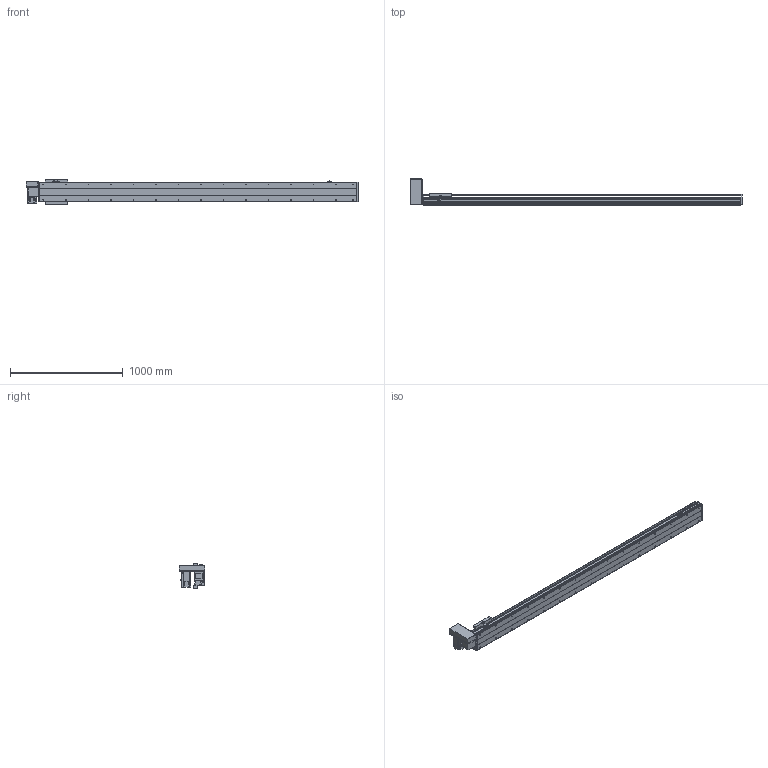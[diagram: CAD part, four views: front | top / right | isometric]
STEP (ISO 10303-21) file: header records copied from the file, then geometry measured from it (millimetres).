
FILE_DESCRIPTION(/* description */ ('STEP AP214'),/* implementation_level */ '2;1');
FILE_NAME(/* name */ 'PBS200-P40-S2450-RU-T75-C1-N(0)',/* time_stamp */ '2022-06-11T09:37:20+02:00',/* author */ ('License CC BY-ND 4.0'),/* organization */ ('CADENAS'),/* preprocessor_version */ 'ST-DEVELOPER v18.102',/* originating_system */ 'PARTsolutions',/* authorisation */ ' ');
FILE_SCHEMA (('AUTOMOTIVE_DESIGN {1 0 10303 214 3 1 1}'));
Length unit declared in the file: millimetre
Products named in the file (7): PBS200-P40-S2450-RU-T75-C1-N(0); PBS200_sensor; PBS200_plant; PBS200_sliser; T75-p1; PBS200T-RU_motors; PBS200-S2450()_body
Assembly tree (8 placements, depth 2):
  PBS200-P40-S2450-RU-T75-C1-N(0)
    PBS200_sensor  x3
    PBS200_plant
    PBS200_sliser
    T75-p1
    PBS200T-RU_motors
    PBS200-S2450()_body
Bounding box: 2950 x 231 x 221 mm (x, y, z)
Volume: 20291827.3 mm3; surface area: 3247048.3 mm2
Topology: 8 solids, 8 shells, 962 faces, 2444 edges, 1590 vertices
Faces by surface type: plane 588, cylinder 312, cone 62
Full cylindrical faces by diameter (mm): 2.459 x6, 3.242 x4, 4.5 x6, 4.917 x4, 5 x6, 6 x7, 6.6 x8, 6.647 x34, 8 x6, 10 x4, 12 x8, 38 x2, 40 x1, 70 x1
Entity records: 25421 total; most frequent: DIRECTION 4495, CARTESIAN_POINT 4318, ORIENTED_EDGE 4066, EDGE_CURVE 2033, AXIS2_PLACEMENT_3D 1591, VERTEX_POINT 1414, LINE 1313, VECTOR 1313
